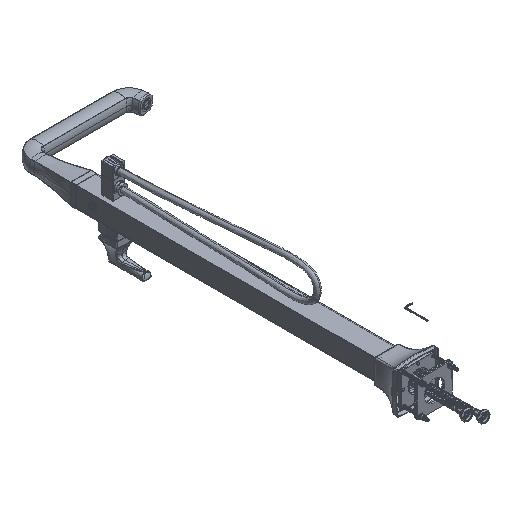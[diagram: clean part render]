
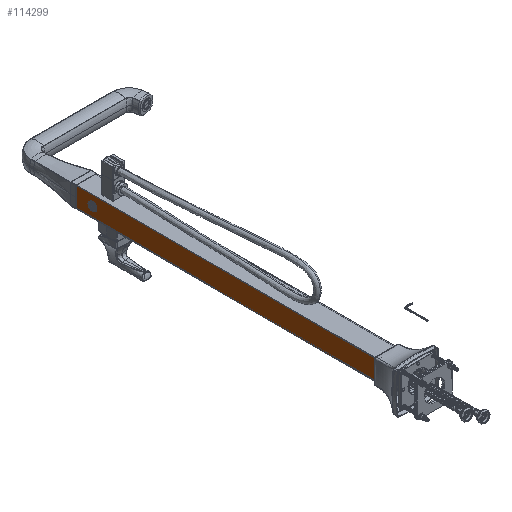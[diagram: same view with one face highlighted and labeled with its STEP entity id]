
A CAD part, isometric view. The second image highlights one B-rep face of the part: STEP entity #114299.
In plain terms, the highlighted planar face has unit normal (-1, 0, 0).
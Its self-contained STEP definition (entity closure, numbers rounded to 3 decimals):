
#4678 = VERTEX_POINT ( 'NONE', #63595 ) ;
#5595 = PLANE ( 'NONE',  #16285 ) ;
#6257 = FACE_OUTER_BOUND ( 'NONE', #55706, .T. ) ;
#6579 = CARTESIAN_POINT ( 'NONE',  ( -0.984, 3.272, 0. ) ) ;
#9534 = EDGE_CURVE ( 'NONE', #4678, #45211, #117302, .T. ) ;
#11047 = VERTEX_POINT ( 'NONE', #47809 ) ;
#12324 = AXIS2_PLACEMENT_3D ( 'NONE', #6579, #118674, #56461 ) ;
#13715 = VECTOR ( 'NONE', #80003, 39.37 ) ;
#14829 = DIRECTION ( 'NONE',  ( 0., 0., 1. ) ) ;
#15762 = EDGE_CURVE ( 'NONE', #38445, #122977, #40195, .T. ) ;
#16285 = AXIS2_PLACEMENT_3D ( 'NONE', #97394, #117714, #54825 ) ;
#18284 = EDGE_CURVE ( 'NONE', #45211, #83010, #54359, .T. ) ;
#30811 = CARTESIAN_POINT ( 'NONE',  ( -0.984, -26.197, 0. ) ) ;
#30942 = EDGE_CURVE ( 'NONE', #83010, #11047, #70174, .T. ) ;
#32890 = CARTESIAN_POINT ( 'NONE',  ( -0.984, 4.807, -0.965 ) ) ;
#33399 = CARTESIAN_POINT ( 'NONE',  ( -0.984, -26.197, -0.965 ) ) ;
#34031 = VECTOR ( 'NONE', #43219, 39.37 ) ;
#36539 = LINE ( 'NONE', #73938, #47813 ) ;
#38445 = VERTEX_POINT ( 'NONE', #109819 ) ;
#38564 = DIRECTION ( 'NONE',  ( 0., 0., -1. ) ) ;
#40195 = CIRCLE ( 'NONE', #88322, 0.406 ) ;
#43219 = DIRECTION ( 'NONE',  ( 0., -1., 0. ) ) ;
#45211 = VERTEX_POINT ( 'NONE', #32890 ) ;
#47809 = CARTESIAN_POINT ( 'NONE',  ( -0.984, -26.197, 0.965 ) ) ;
#47813 = VECTOR ( 'NONE', #96212, 39.37 ) ;
#48104 = ORIENTED_EDGE ( 'NONE', *, *, #15762, .T. ) ;
#49066 = CARTESIAN_POINT ( 'NONE',  ( -0.984, 4.807, -0.984 ) ) ;
#54359 = LINE ( 'NONE', #33399, #34031 ) ;
#54825 = DIRECTION ( 'NONE',  ( 0., 1., 0. ) ) ;
#55706 = EDGE_LOOP ( 'NONE', ( #58306, #70102, #108782, #57304 ) ) ;
#56461 = DIRECTION ( 'NONE',  ( 0., 0., 1. ) ) ;
#57304 = ORIENTED_EDGE ( 'NONE', *, *, #30942, .T. ) ;
#58306 = ORIENTED_EDGE ( 'NONE', *, *, #73359, .T. ) ;
#61685 = EDGE_LOOP ( 'NONE', ( #112948, #48104 ) ) ;
#63595 = CARTESIAN_POINT ( 'NONE',  ( -0.984, 4.807, 0.965 ) ) ;
#68878 = CIRCLE ( 'NONE', #12324, 0.406 ) ;
#70102 = ORIENTED_EDGE ( 'NONE', *, *, #9534, .T. ) ;
#70174 = LINE ( 'NONE', #30811, #13715 ) ;
#73359 = EDGE_CURVE ( 'NONE', #11047, #4678, #36539, .T. ) ;
#73938 = CARTESIAN_POINT ( 'NONE',  ( -0.984, -26.197, 0.965 ) ) ;
#75533 = EDGE_CURVE ( 'NONE', #122977, #38445, #68878, .T. ) ;
#80003 = DIRECTION ( 'NONE',  ( 0., 0., 1. ) ) ;
#81784 = VECTOR ( 'NONE', #38564, 39.37 ) ;
#83010 = VERTEX_POINT ( 'NONE', #106546 ) ;
#86928 = FACE_BOUND ( 'NONE', #61685, .T. ) ;
#88322 = AXIS2_PLACEMENT_3D ( 'NONE', #104016, #104674, #14829 ) ;
#96212 = DIRECTION ( 'NONE',  ( 0., 1., 0. ) ) ;
#96309 = CARTESIAN_POINT ( 'NONE',  ( -0.984, 3.272, 0.406 ) ) ;
#97394 = CARTESIAN_POINT ( 'NONE',  ( -0.984, -26.197, -0.984 ) ) ;
#104016 = CARTESIAN_POINT ( 'NONE',  ( -0.984, 3.272, 0. ) ) ;
#104674 = DIRECTION ( 'NONE',  ( 1., 0., 0. ) ) ;
#106546 = CARTESIAN_POINT ( 'NONE',  ( -0.984, -26.197, -0.965 ) ) ;
#108782 = ORIENTED_EDGE ( 'NONE', *, *, #18284, .T. ) ;
#109819 = CARTESIAN_POINT ( 'NONE',  ( -0.984, 3.272, -0.406 ) ) ;
#112948 = ORIENTED_EDGE ( 'NONE', *, *, #75533, .T. ) ;
#114299 = ADVANCED_FACE ( 'NONE', ( #86928, #6257 ), #5595, .T. ) ;
#117302 = LINE ( 'NONE', #49066, #81784 ) ;
#117714 = DIRECTION ( 'NONE',  ( -1., 0., 0. ) ) ;
#118674 = DIRECTION ( 'NONE',  ( 1., 0., 0. ) ) ;
#122977 = VERTEX_POINT ( 'NONE', #96309 ) ;
